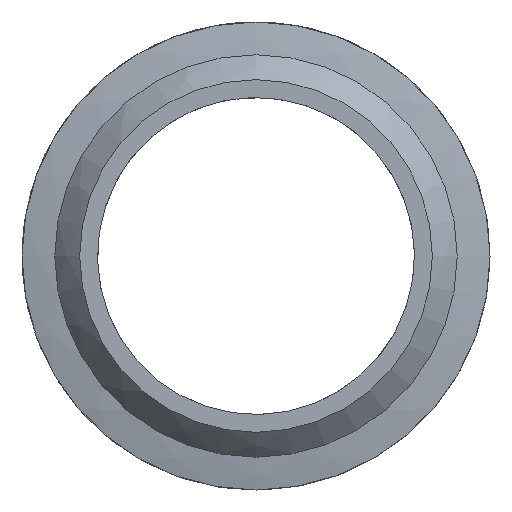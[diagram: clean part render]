
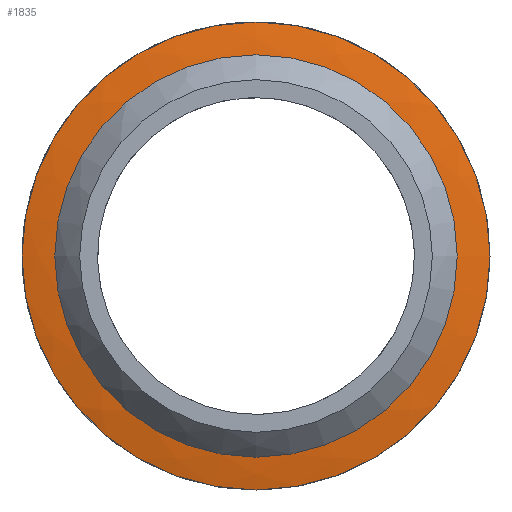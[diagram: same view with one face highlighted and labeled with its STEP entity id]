
A CAD part, left-side view. The second image highlights one B-rep face of the part: STEP entity #1835.
In plain terms, the highlighted free-form (B-spline) face has degree [2, 2] with [3, 9] control points.
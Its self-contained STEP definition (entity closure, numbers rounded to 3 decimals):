
#335=FACE_OUTER_BOUND('',#482,.T.);
#482=EDGE_LOOP('',(#1615,#1616,#1617,#1618,#1619));
#682=CIRCLE('',#2012,50.);
#683=CIRCLE('',#2013,50.);
#685=CIRCLE('',#2016,43.);
#691=(
BOUNDED_CURVE()
B_SPLINE_CURVE(2,(#4431,#4432,#4433),.UNSPECIFIED.,.F.,.F.)
B_SPLINE_CURVE_WITH_KNOTS((3,3),(1.336,1.475),
 .UNSPECIFIED.)
CURVE()
GEOMETRIC_REPRESENTATION_ITEM()
RATIONAL_B_SPLINE_CURVE((1.,0.998,1.))
REPRESENTATION_ITEM('')
);
#881=VERTEX_POINT('',#4396);
#882=VERTEX_POINT('',#4397);
#884=VERTEX_POINT('',#4430);
#1126=EDGE_CURVE('',#881,#882,#682,.T.);
#1127=EDGE_CURVE('',#882,#881,#683,.T.);
#1129=EDGE_CURVE('',#882,#884,#691,.T.);
#1130=EDGE_CURVE('',#884,#884,#685,.T.);
#1615=ORIENTED_EDGE('',*,*,#1126,.T.);
#1616=ORIENTED_EDGE('',*,*,#1129,.T.);
#1617=ORIENTED_EDGE('',*,*,#1130,.F.);
#1618=ORIENTED_EDGE('',*,*,#1129,.F.);
#1619=ORIENTED_EDGE('',*,*,#1127,.T.);
#1634=(
BOUNDED_SURFACE()
B_SPLINE_SURFACE(2,2,((#4403,#4404,#4405,#4406,#4407,#4408,#4409,#4410,
#4411),(#4412,#4413,#4414,#4415,#4416,#4417,#4418,#4419,#4420),(#4421,#4422,
#4423,#4424,#4425,#4426,#4427,#4428,#4429)),.UNSPECIFIED.,.F.,.T.,.F.)
B_SPLINE_SURFACE_WITH_KNOTS((3,3),(3,2,2,2,3),(-1.475,-1.336),
(-3.142,-1.571,0.,1.571,3.142),
 .UNSPECIFIED.)
GEOMETRIC_REPRESENTATION_ITEM()
RATIONAL_B_SPLINE_SURFACE(((1.,0.707,1.,0.707,1.,
0.707,1.,0.707,1.),(0.998,0.705,
0.998,0.705,0.998,0.705,
0.998,0.705,0.998),(1.,0.707,
1.,0.707,1.,0.707,1.,0.707,1.)))
REPRESENTATION_ITEM('')
SURFACE()
);
#1835=ADVANCED_FACE('',(#335),#1634,.F.);
#2012=AXIS2_PLACEMENT_3D('',#4398,#2405,#2406);
#2013=AXIS2_PLACEMENT_3D('',#4399,#2407,#2408);
#2016=AXIS2_PLACEMENT_3D('',#4434,#2413,#2414);
#2405=DIRECTION('center_axis',(-1.,0.,0.));
#2406=DIRECTION('ref_axis',(0.,1.,0.));
#2407=DIRECTION('center_axis',(-1.,0.,0.));
#2408=DIRECTION('ref_axis',(0.,1.,0.));
#2413=DIRECTION('center_axis',(-1.,0.,0.));
#2414=DIRECTION('ref_axis',(0.,0.479,0.878));
#4396=CARTESIAN_POINT('',(43.47,50.,0.));
#4397=CARTESIAN_POINT('',(43.47,-50.,0.));
#4398=CARTESIAN_POINT('Origin',(43.47,0.,0.));
#4399=CARTESIAN_POINT('Origin',(43.47,0.,0.));
#4403=CARTESIAN_POINT('Ctrl Pts',(42.3,-43.,0.));
#4404=CARTESIAN_POINT('Ctrl Pts',(42.3,-43.,-43.));
#4405=CARTESIAN_POINT('Ctrl Pts',(42.3,0.,
-43.));
#4406=CARTESIAN_POINT('Ctrl Pts',(42.3,43.,-43.));
#4407=CARTESIAN_POINT('Ctrl Pts',(42.3,43.,0.));
#4408=CARTESIAN_POINT('Ctrl Pts',(42.3,43.,43.));
#4409=CARTESIAN_POINT('Ctrl Pts',(42.3,0.,
43.));
#4410=CARTESIAN_POINT('Ctrl Pts',(42.3,-43.,43.));
#4411=CARTESIAN_POINT('Ctrl Pts',(42.3,-43.,0.));
#4412=CARTESIAN_POINT('Ctrl Pts',(42.641,-46.541,0.));
#4413=CARTESIAN_POINT('Ctrl Pts',(42.641,-46.541,-46.541));
#4414=CARTESIAN_POINT('Ctrl Pts',(42.641,0.,
-46.541));
#4415=CARTESIAN_POINT('Ctrl Pts',(42.641,46.541,-46.541));
#4416=CARTESIAN_POINT('Ctrl Pts',(42.641,46.541,0.));
#4417=CARTESIAN_POINT('Ctrl Pts',(42.641,46.541,46.541));
#4418=CARTESIAN_POINT('Ctrl Pts',(42.641,0.,
46.541));
#4419=CARTESIAN_POINT('Ctrl Pts',(42.641,-46.541,46.541));
#4420=CARTESIAN_POINT('Ctrl Pts',(42.641,-46.541,0.));
#4421=CARTESIAN_POINT('Ctrl Pts',(43.47,-50.,0.));
#4422=CARTESIAN_POINT('Ctrl Pts',(43.47,-50.,-50.));
#4423=CARTESIAN_POINT('Ctrl Pts',(43.47,0.,
-50.));
#4424=CARTESIAN_POINT('Ctrl Pts',(43.47,50.,-50.));
#4425=CARTESIAN_POINT('Ctrl Pts',(43.47,50.,0.));
#4426=CARTESIAN_POINT('Ctrl Pts',(43.47,50.,50.));
#4427=CARTESIAN_POINT('Ctrl Pts',(43.47,0.,
50.));
#4428=CARTESIAN_POINT('Ctrl Pts',(43.47,-50.,50.));
#4429=CARTESIAN_POINT('Ctrl Pts',(43.47,-50.,0.));
#4430=CARTESIAN_POINT('',(42.3,-43.,0.));
#4431=CARTESIAN_POINT('Ctrl Pts',(43.47,-50.,0.));
#4432=CARTESIAN_POINT('Ctrl Pts',(42.641,-46.541,0.));
#4433=CARTESIAN_POINT('Ctrl Pts',(42.3,-43.,0.));
#4434=CARTESIAN_POINT('Origin',(42.3,0.,0.));
